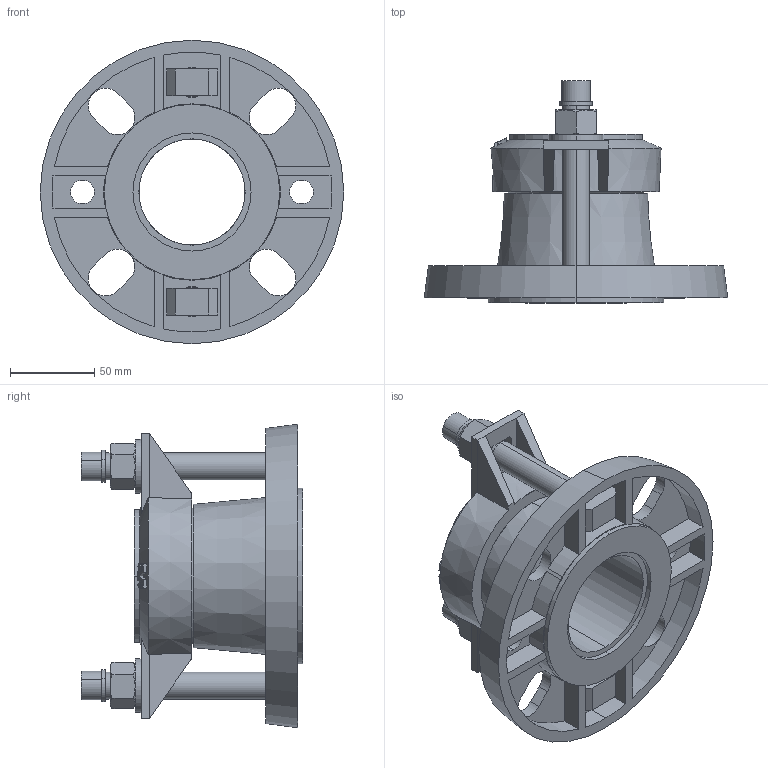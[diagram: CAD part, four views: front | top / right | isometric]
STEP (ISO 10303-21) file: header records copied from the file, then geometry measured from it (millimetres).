
FILE_DESCRIPTION (( 'STEP AP203' ), '1' );
FILE_NAME ('O_623_10_DN050-63mm_X1XXXXX_REV01.step', '2020-04-17T08:21:52', ( '' ), ( '' ), 'SwSTEP 2.0', 'SolidWorks 2019', '' );
FILE_SCHEMA (( 'CONFIG_CONTROL_DESIGN' ));
Length unit declared in the file: millimetre
Products named in the file (1): O_623_10_DN050-63mm_X1XXXXX_REV01
Bounding box: 180 x 131.5 x 180 mm (x, y, z)
Volume: 636047.3 mm3; surface area: 139914.5 mm2
Topology: 1 solids, 1 shells, 287 faces, 735 edges, 469 vertices
Faces by surface type: plane 149, cylinder 94, cone 42, bspline 2
Entity records: 9123 total; most frequent: CARTESIAN_POINT 2108, ORIENTED_EDGE 1470, DIRECTION 1410, EDGE_CURVE 735, AXIS2_PLACEMENT_3D 531, VERTEX_POINT 469, VECTOR 348, LINE 348
